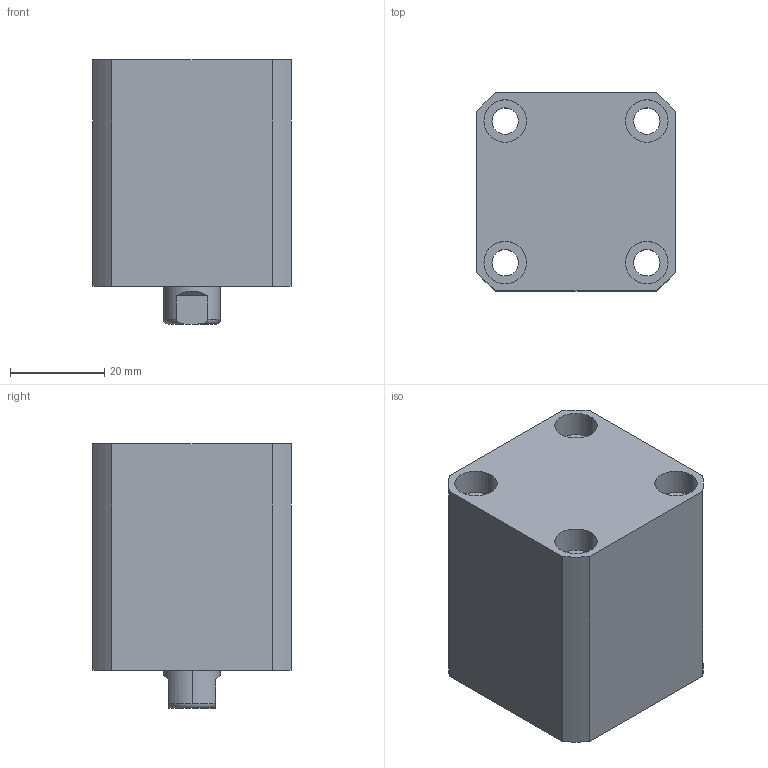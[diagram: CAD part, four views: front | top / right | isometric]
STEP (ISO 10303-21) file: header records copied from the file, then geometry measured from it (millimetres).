
FILE_DESCRIPTION (( 'STEP AP214' ), '1' );
FILE_NAME ('chtb-sd20x5n_asm.STEP', '2018-04-26T11:20:15', ( 'Windows' ), ( 'Microsoft' ), 'SwSTEP 2.0', 'SolidWorks 2015', '' );
FILE_SCHEMA (( 'AUTOMOTIVE_DESIGN' ));
Length unit declared in the file: millimetre
Products named in the file (4): QG; CHTB-SD20X5NHSG; CHTB-SD20X5NBT; chtb-sd20x5n_asm
Assembly tree (3 placements, depth 2):
  chtb-sd20x5n_asm
    CHTB-SD20X5NBT
    CHTB-SD20X5NHSG
    QG
Bounding box: 42 x 42 x 56 mm (x, y, z)
Volume: 73051.7 mm3; surface area: 26307.3 mm2
Topology: 3 solids, 3 shells, 192 faces, 499 edges, 330 vertices
Faces by surface type: cylinder 102, plane 36, torus 25, bspline 19, cone 10
Entity records: 10502 total; most frequent: CARTESIAN_POINT 5851, ORIENTED_EDGE 986, DIRECTION 903, EDGE_CURVE 493, AXIS2_PLACEMENT_3D 385, VERTEX_POINT 330, EDGE_LOOP 229, CIRCLE 206
